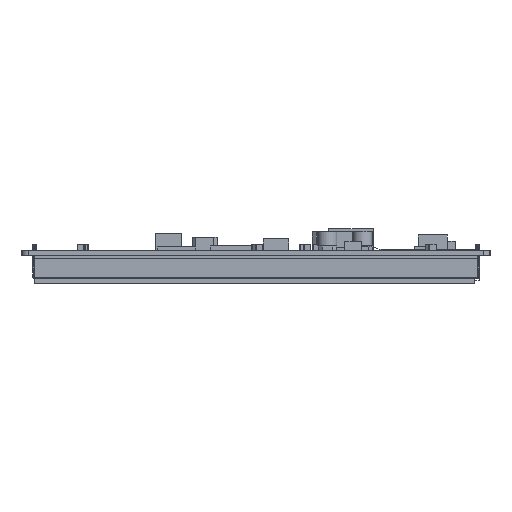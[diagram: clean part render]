
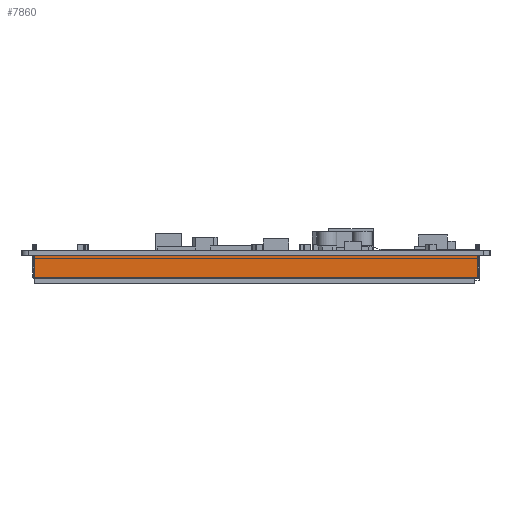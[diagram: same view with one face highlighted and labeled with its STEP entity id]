
A CAD part, left-side view. The second image highlights one B-rep face of the part: STEP entity #7860.
In plain terms, the highlighted planar face has unit normal (-1, 0, 0).
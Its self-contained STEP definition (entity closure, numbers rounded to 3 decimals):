
#7860=ADVANCED_FACE('',(#12349),#10144,.F.);
#10144=PLANE('',#43833);
#12349=FACE_OUTER_BOUND('',#14708,.T.);
#14708=EDGE_LOOP('',(#22819,#22820,#22821,#22822));
#22819=ORIENTED_EDGE('',*,*,#31859,.F.);
#22820=ORIENTED_EDGE('',*,*,#31860,.T.);
#22821=ORIENTED_EDGE('',*,*,#31861,.T.);
#22822=ORIENTED_EDGE('',*,*,#31862,.T.);
#27365=VERTEX_POINT('',#62675);
#27366=VERTEX_POINT('',#62676);
#27367=VERTEX_POINT('',#62678);
#27368=VERTEX_POINT('',#62680);
#31859=EDGE_CURVE('',#27365,#27366,#36598,.T.);
#31860=EDGE_CURVE('',#27365,#27367,#36599,.T.);
#31861=EDGE_CURVE('',#27367,#27368,#36600,.T.);
#31862=EDGE_CURVE('',#27368,#27366,#36601,.T.);
#36598=LINE('',#62674,#41131);
#36599=LINE('',#62677,#41132);
#36600=LINE('',#62679,#41133);
#36601=LINE('',#62681,#41134);
#41131=VECTOR('',#52016,1.);
#41132=VECTOR('',#52017,1.);
#41133=VECTOR('',#52018,1.);
#41134=VECTOR('',#52019,1.);
#43833=AXIS2_PLACEMENT_3D('',#62682,#52020,#52021);
#52016=DIRECTION('',(0.,0.,1.));
#52017=DIRECTION('',(0.,-1.,0.));
#52018=DIRECTION('',(0.,0.,1.));
#52019=DIRECTION('',(0.,1.,0.));
#52020=DIRECTION('',(1.,0.,0.));
#52021=DIRECTION('',(0.,1.,0.));
#62674=CARTESIAN_POINT('',(-84.85,74.48,-8.8));
#62675=CARTESIAN_POINT('',(-84.85,74.48,-8.4));
#62676=CARTESIAN_POINT('',(-84.85,74.48,-1.6));
#62677=CARTESIAN_POINT('',(-84.85,-66.52,-8.4));
#62678=CARTESIAN_POINT('',(-84.85,-66.52,-8.4));
#62679=CARTESIAN_POINT('',(-84.85,-66.52,-8.8));
#62680=CARTESIAN_POINT('',(-84.85,-66.52,-1.6));
#62681=CARTESIAN_POINT('',(-84.85,-66.52,-1.6));
#62682=CARTESIAN_POINT('',(-84.85,-66.52,-8.8));
